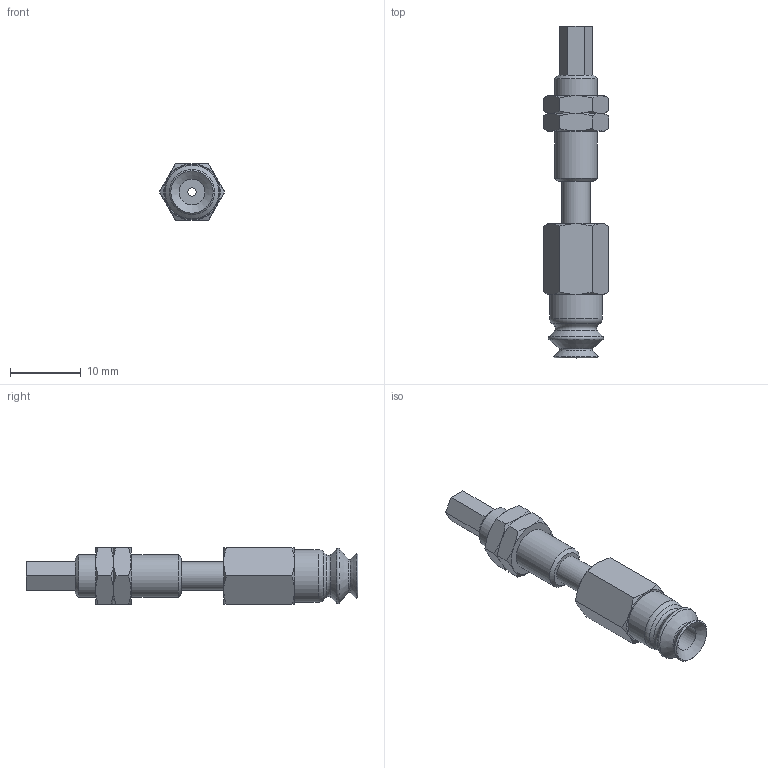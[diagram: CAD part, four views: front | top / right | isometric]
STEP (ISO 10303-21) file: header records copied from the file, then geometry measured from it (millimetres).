
FILE_DESCRIPTION(('STEP AP203'),'1');
FILE_NAME('.stp','2025-08-27T07:21:04',(' '),(' '),'Spatial InterOp 3D',' ',' ');
FILE_SCHEMA(('CONFIG_CONTROL_DESIGN'));
Length unit declared in the file: millimetre
Products named in the file (6): BNABPJTS-6-6-※; ADAPTER; NAPCTS-7-6-MBODY; NUT-NAPJ-6-6-s; NAPJTS-6-6-FBODY; BPJG-6-※
Assembly tree (6 placements, depth 2):
  BNABPJTS-6-6-※
    ADAPTER
    NAPCTS-7-6-MBODY
    NUT-NAPJ-6-6-s  x2
    NAPJTS-6-6-FBODY
    BPJG-6-※
Bounding box: 9.24 x 47 x 8 mm (x, y, z)
Volume: 1516.1 mm3; surface area: 2258.9 mm2
Topology: 6 solids, 6 shells, 119 faces, 253 edges, 149 vertices
Faces by surface type: cone 51, plane 45, cylinder 14, torus 9
Full cylindrical faces by diameter (mm): 1.2 x2, 2.459 x1, 3.64 x1, 4 x4, 5.188 x2, 6 x3, 7.5 x1
Entity records: 2778 total; most frequent: CARTESIAN_POINT 639, DIRECTION 392, ORIENTED_EDGE 320, AXIS2_PLACEMENT_3D 178, EDGE_CURVE 160, EDGE_LOOP 143, FACE_OUTER_BOUND 118, VERTEX_POINT 111
